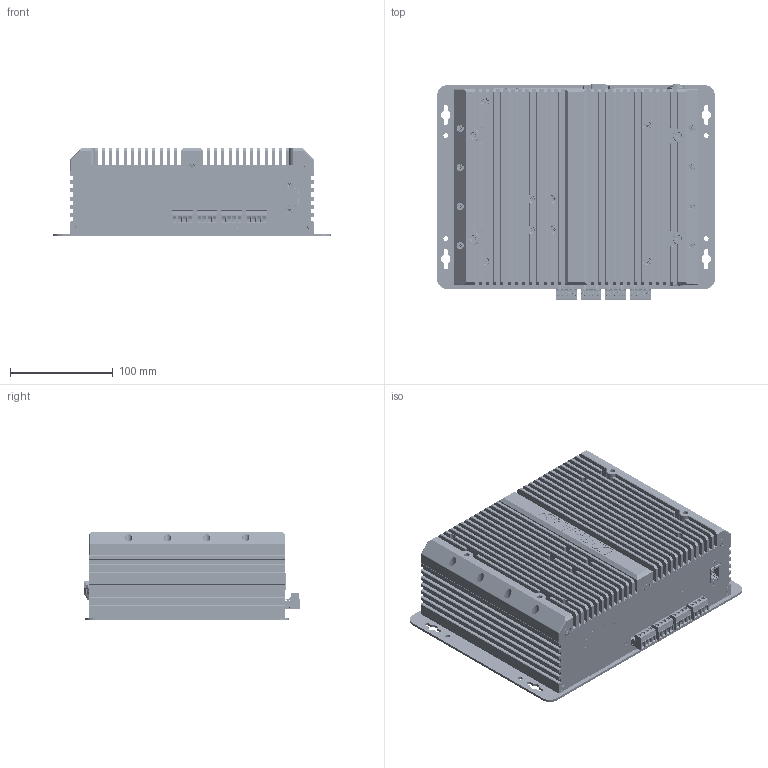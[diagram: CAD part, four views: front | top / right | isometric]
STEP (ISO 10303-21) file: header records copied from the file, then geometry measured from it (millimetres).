
FILE_DESCRIPTION(('STEP AP214'), '1');
FILE_NAME('EMB-PC-RU â ñòåïêóóóó', '', ('UNSPECIFIED'), ('UNSPECIFIED'), 'C3D Converter', 'C3D Toolkit', '');
FILE_SCHEMA(('AUTOMOTIVE_DESIGN { 1 0 10303 214 3 1 1}'));
Length unit declared in the file: millimetre
Bounding box: 270 x 209.35 x 86.45 mm (x, y, z)
Volume: 1090683.9 mm3; surface area: 589853.4 mm2
Topology: 13 solids, 62 shells, 8040 faces, 21955 edges, 14403 vertices
Faces by surface type: plane 4927, extrusion 1619, cylinder 1102, cone 227, torus 109, bspline 47, sphere 9
Full cylindrical faces by diameter (mm): 0.8 x1, 1.2 x15, 1.4 x16, 1.8 x4, 2.459 x10, 3 x47, 3.2 x19, 3.242 x3, 3.95 x16, 4 x11, 4.1 x3, 4.5 x4, 5 x5, 5.2 x1, 5.6 x35, 6 x2, 6.8 x6, 7 x8, 8 x1, 10 x4, 12 x1, 12.2 x1, 13.6 x1, 14 x1
Entity records: 346850 total; most frequent: CARTESIAN_POINT 86825, ORIENTED_EDGE 43078, DIRECTION 34102, EDGE_CURVE 21539, VECTOR 16518, LINE 14899, VERTEX_POINT 14399, EDGE_LOOP 9116
